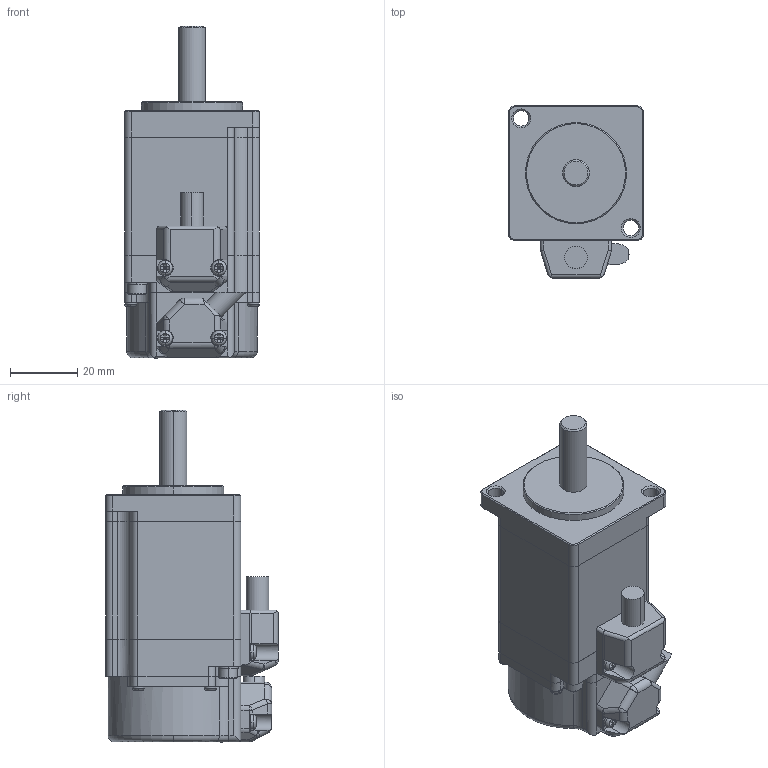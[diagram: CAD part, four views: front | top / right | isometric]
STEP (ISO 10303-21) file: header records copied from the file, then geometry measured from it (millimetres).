
FILE_DESCRIPTION (( 'STEP AP203' ), '1' );
FILE_NAME ('TS4603N1000.STEP', '2010-08-04T14:30:45', ( 'render' ), ( '' ), 'SwSTEP 2.0', 'SolidWorks 2009', '' );
FILE_SCHEMA (( 'CONFIG_CONTROL_DESIGN' ));
Length unit declared in the file: millimetre
Products named in the file (1): TS4603N1000
Bounding box: 40 x 51.1 x 98.5 mm (x, y, z)
Volume: 114237.9 mm3; surface area: 25657.9 mm2
Topology: 4 solids, 4 shells, 588 faces, 1405 edges, 833 vertices
Faces by surface type: plane 270, cylinder 210, cone 52, sphere 31, torus 21, bspline 4
Entity records: 19373 total; most frequent: CARTESIAN_POINT 6697, ORIENTED_EDGE 2802, DIRECTION 2320, EDGE_CURVE 1401, AXIS2_PLACEMENT_3D 862, VERTEX_POINT 833, EDGE_LOOP 608, LINE 596
